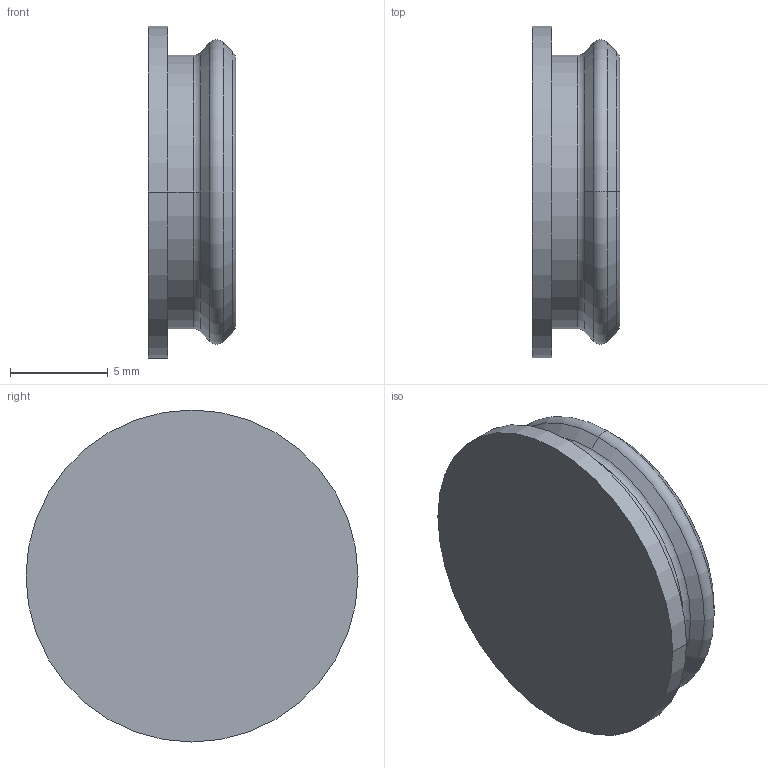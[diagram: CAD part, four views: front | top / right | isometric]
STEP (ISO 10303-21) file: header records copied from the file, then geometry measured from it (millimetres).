
FILE_DESCRIPTION (( 'STEP AP214' ), '1' );
FILE_NAME ('青汶篪赅 usb.STEP', '2021-11-10T11:30:37', ( 'j03075@gmail.com' ), ( '' ), 'SwSTEP 2.0', 'SolidWorks 2021', '' );
FILE_SCHEMA (( 'AUTOMOTIVE_DESIGN' ));
Length unit declared in the file: millimetre
Products named in the file (1): ч蜱齁罻 usb
Bounding box: 4.47 x 17 x 17 mm (x, y, z)
Volume: 469 mm3; surface area: 773.8 mm2
Topology: 1 solids, 1 shells, 23 faces, 46 edges, 26 vertices
Faces by surface type: torus 10, cylinder 6, cone 4, plane 3
Entity records: 638 total; most frequent: DIRECTION 130, CARTESIAN_POINT 96, ORIENTED_EDGE 92, AXIS2_PLACEMENT_3D 60, EDGE_CURVE 46, CIRCLE 36, VERTEX_POINT 26, EDGE_LOOP 24
